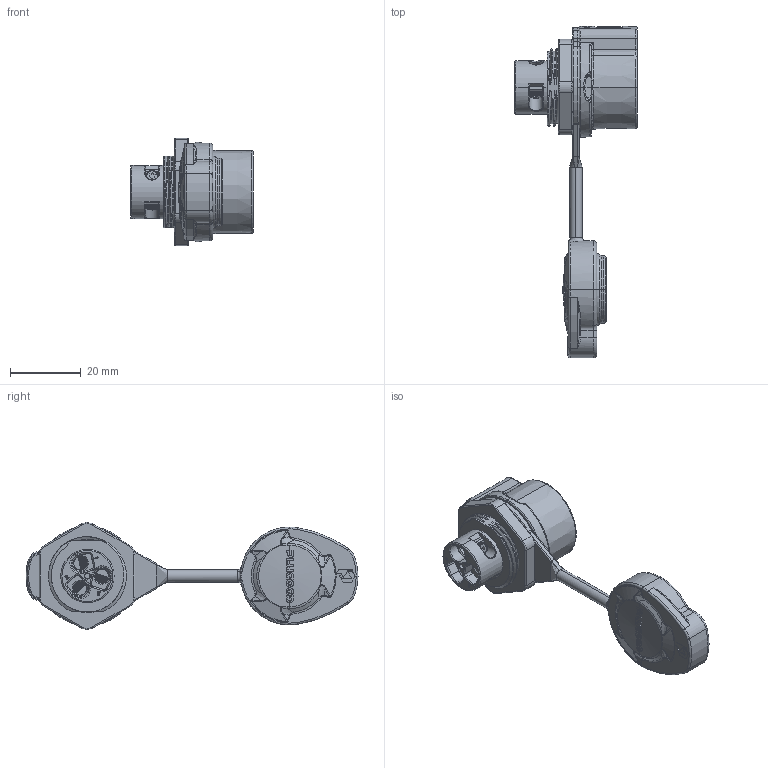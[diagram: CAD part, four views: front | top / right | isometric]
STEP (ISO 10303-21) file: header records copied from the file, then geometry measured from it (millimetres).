
FILE_DESCRIPTION (( 'STEP AP203' ), '1' );
FILE_NAME ('PLG20 3芯锁螺丝单孔插座成品图 .STEP', '2025-07-21T09:46:04', ( '' ), ( '' ), 'SwSTEP 2.0', 'SolidWorks 2015', '' );
FILE_SCHEMA (( 'CONFIG_CONTROL_DESIGN' ));
Length unit declared in the file: millimetre
Products named in the file (1): PLG20 3芯锁螺丝单孔插座成品图 
Bounding box: 34.5 x 93.63 x 30.25 mm (x, y, z)
Volume: 15611.7 mm3; surface area: 15166.6 mm2
Topology: 27 solids, 27 shells, 1426 faces, 3575 edges, 2234 vertices
Faces by surface type: bspline 412, cylinder 337, plane 329, torus 224, cone 106, sphere 18
Entity records: 89079 total; most frequent: CARTESIAN_POINT 58970, ORIENTED_EDGE 7130, DIRECTION 5136, EDGE_CURVE 3565, VERTEX_POINT 2234, AXIS2_PLACEMENT_3D 2045, EDGE_LOOP 1491, ADVANCED_FACE 1426
